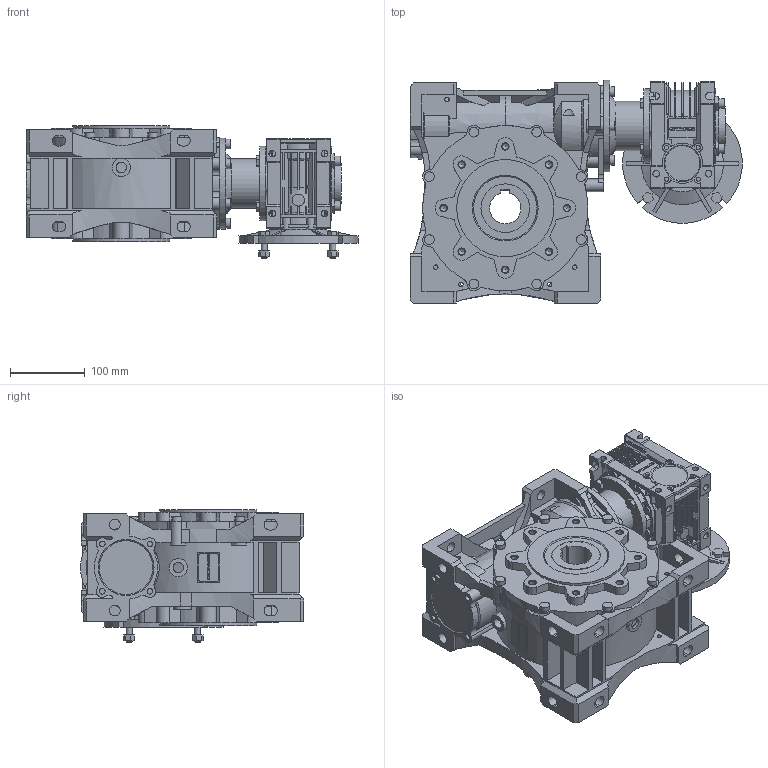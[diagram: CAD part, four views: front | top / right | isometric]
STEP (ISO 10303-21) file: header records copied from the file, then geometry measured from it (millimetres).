
FILE_DESCRIPTION(/* description */ ('STEP AP214'),/* implementation_level */ '2;1');
FILE_NAME(/* name */ 'NMRVP-NMRVP 050-110 100 (10x10) BS1 160x14 25 NO 42 NO NO - - NO - - - NO NO - --(--------)',/* time_stamp */ '2024-10-24T15:56:35+02:00',/* author */ ('License CC BY-ND 4.0'),/* organization */ ('CADENAS'),/* preprocessor_version */ 'ST-DEVELOPER v19.3',/* originating_system */ 'PARTsolutions',/* authorisation */ ' ');
FILE_SCHEMA (('AUTOMOTIVE_DESIGN {1 0 10303 214 3 1 1}'));
Products named in the file (11): NMRVP-NMRVP 050-110 100 (10x10) BS1 160x14 25 NO 42 NO NO - - NO - - 
- NO NO - --(--------); W.110.01.M; 110-42 (155); W.110.14.28.M-p; 050-110-TRA; W.050.01.M; 050-25 (92); VB 050-14 (14)-p; 5071 B5; Corona 50-p; 110-65
Assembly tree (10 placements, depth 2):
  NMRVP-NMRVP 050-110 100 (10x10) BS1 160x14 25 NO 42 NO NO - - NO - - 
- NO NO - --(--------)
    W.110.01.M
    110-42 (155)
    W.110.14.28.M-p
    050-110-TRA
    W.050.01.M
    050-25 (92)
    VB 050-14 (14)-p
    5071 B5
    Corona 50-p
    110-65
Bounding box: 444.27 x 298.5 x 177.5 mm (x, y, z)
Volume: 8857375.4 mm3; surface area: 941075.6 mm2
Topology: 10 solids, 19 shells, 2221 faces, 5935 edges, 3903 vertices
Faces by surface type: plane 1326, cylinder 746, cone 144, torus 5
Full cylindrical faces by diameter (mm): 3.775 x3, 5.55 x4, 6 x10, 6.647 x8, 7.45 x12, 8 x8, 8.376 x16, 8.8 x8, 10 x14, 13 x18, 14 x8, 14.5 x2, 16 x1, 24 x2, 28 x2, 34 x1, 39 x1, 40 x2, 41 x1, 47 x2, 55 x2, 56 x1, 63 x1, 65 x3, 66 x1, 70 x3, 76 x1, 90 x3, 100 x2, 107 x1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
Entity records: 83877 total; most frequent: CARTESIAN_POINT 13155, DIRECTION 11538, ORIENTED_EDGE 11310, EDGE_CURVE 5655, AXIS2_PLACEMENT_3D 4044, VERTEX_POINT 3861, LINE 3450, VECTOR 3450
